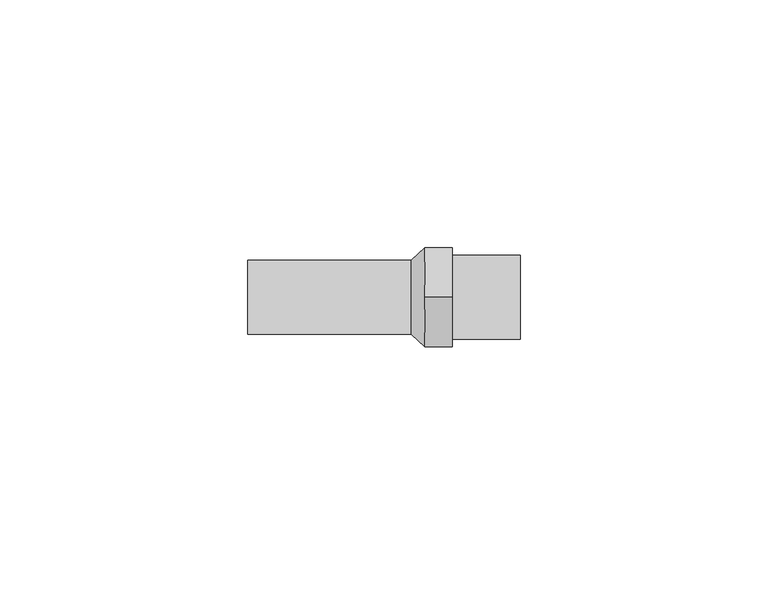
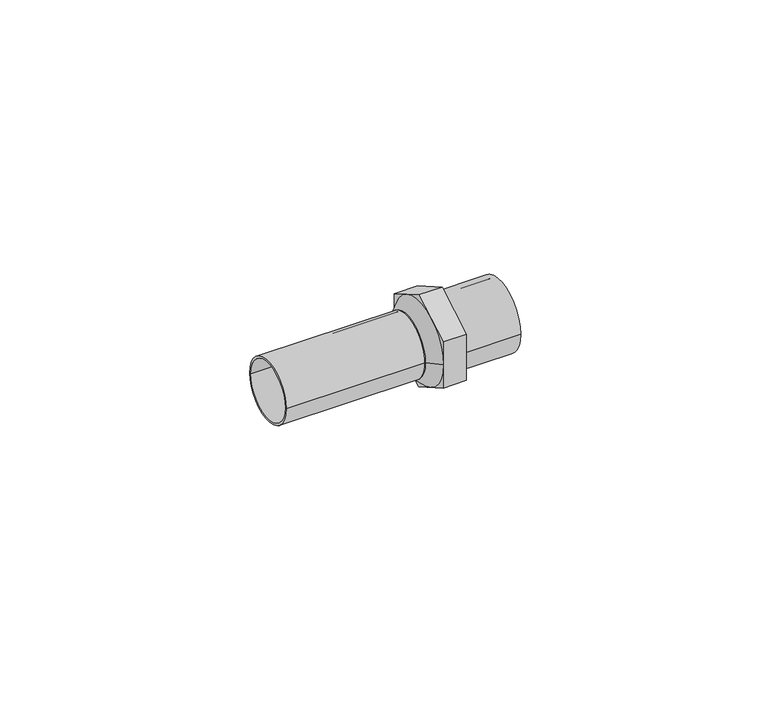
"""IFC4 building model written with IfcOpenShell, lengths in millimetres: pipe fitting geometry, VALTEC_VTi.906.I_Вставка с наружной резьбой нержавеющая сталь : VTi.906.I."""

from ifc_helpers import new_model, si_unit, point, frame, origin, origin_2d, place, context, project, spatial, polyline, circle_curve, trimmed, segment, composite_curve, outline, extrude, source, transform, mapped, element, save
from ifc_brep_helpers import plane_surface, revolved_surface, advanced_brep


def pipe_fitting_be2e820c(model_context):
    return source(origin(), model_context, "Body", "SolidModel", [
        extrude(outline(composite_curve([segment(trimmed(circle_curve(origin_2d(), 8.5), [point((-8.5, 0.0))], [point((8.5, 0.0))], False, "CARTESIAN"), True, "CONTINUOUS"), segment(trimmed(circle_curve(origin_2d(), 8.5), [point((8.5, 0.0))], [point((-8.5, 0.0))], False, "CARTESIAN"), True, "CONTINUOUS")], self_intersect=False), holes=[composite_curve([segment(trimmed(circle_curve(origin_2d(), 7.5), [point((-7.5, 0.0))], [point((7.5, 0.0))], True, "CARTESIAN"), True, "CONTINUOUS"), segment(trimmed(circle_curve(origin_2d(), 7.5), [point((7.5, 0.0))], [point((-7.5, 0.0))], True, "CARTESIAN"), True, "CONTINUOUS")], self_intersect=False)]), frame((41.25, 0.0, 0.0), z_axis=(1.0, 0.0, 0.0), x_axis=(0.0, 1.0, 0.0)), (0.0, 0.0, 1.0), 13.75),
        advanced_brep(
        [(35.75, -10.0, 0.0), (35.75, 10.0, 0.0), (33.0, -7.5, 0.0), (33.0, 7.5, 0.0)],
        [
            (0, 1, circle_curve(frame((35.75, 0.0, 0.0), z_axis=(1.0, 0.0, 0.0), x_axis=(0.0, -1.0, 0.0)), 10.0)),
            (1, 0, circle_curve(frame((35.75, 0.0, 0.0), z_axis=(1.0, 0.0, 0.0), x_axis=(0.0, 1.0, 0.0)), 10.0)),
            (2, 3, circle_curve(frame((33.0, 0.0, 0.0), z_axis=(-1.0, 0.0, 0.0), x_axis=(0.0, 1.0, 0.0)), 7.5)),
            (3, 2, circle_curve(frame((33.0, 0.0, 0.0), z_axis=(-1.0, 0.0, 0.0), x_axis=(0.0, -1.0, 0.0)), 7.5)),
            (3, 1),
            (0, 2),
        ],
        [
            plane_surface(frame((35.75, 0.0, 0.0), z_axis=(1.0, 0.0, 0.0), x_axis=(0.0, 0.0, -1.0))),
            plane_surface(frame((33.0, 0.0, 0.0), z_axis=(-1.0, 0.0, 0.0), x_axis=(0.0, 0.0, -1.0))),
            revolved_surface(polyline([(33.0, 7.5, 0.0), (35.75, 10.0, 0.0)]), (24.75, 0.0, 0.0), (1.0, 0.0, 0.0)),
            revolved_surface(polyline([(33.0, -7.5, 0.0), (35.75, -10.0, 0.0)]), (24.75, 0.0, 0.0), (1.0, 0.0, 0.0)),
        ],
        [
            (0, [[1, 2]]),
            (1, [[3, 4]]),
            (2, [[-4, 5, -1, 6]]),
            (3, [[-3, -6, -2, -5]]),
        ],
    ),
        extrude(outline(polyline([(0.0, 11.5470054), (10.0, 5.7735027), (10.0, -5.7735027), (0.0, -11.5470054), (-10.0, -5.7735027), (-10.0, 5.7735027), (0.0, 11.5470054)]), holes=[composite_curve([segment(trimmed(circle_curve(origin_2d(), 7.5), [point((-7.5, 0.0))], [point((7.5, 0.0))], True, "CARTESIAN"), True, "CONTINUOUS"), segment(trimmed(circle_curve(origin_2d(), 7.5), [point((7.5, 0.0))], [point((-7.5, 0.0))], True, "CARTESIAN"), True, "CONTINUOUS")], self_intersect=False)]), frame((35.75, 0.0, 0.0), z_axis=(1.0, 0.0, 0.0), x_axis=(0.0, 1.0, 0.0)), (0.0, 0.0, 1.0), 5.5),
        extrude(outline(composite_curve([segment(trimmed(circle_curve(origin_2d(), 7.5), [point((-7.5, 0.0))], [point((7.5, 0.0))], False, "CARTESIAN"), True, "CONTINUOUS"), segment(trimmed(circle_curve(origin_2d(), 7.5), [point((7.5, 0.0))], [point((-7.5, 0.0))], False, "CARTESIAN"), True, "CONTINUOUS")], self_intersect=False), holes=[composite_curve([segment(trimmed(circle_curve(origin_2d(), 7.0), [point((-7.0, 0.0))], [point((7.0, 0.0))], True, "CARTESIAN"), True, "CONTINUOUS"), segment(trimmed(circle_curve(origin_2d(), 7.0), [point((7.0, 0.0))], [point((-7.0, 0.0))], True, "CARTESIAN"), True, "CONTINUOUS")], self_intersect=False)]), frame((0.0, 0.0, 0.0), z_axis=(1.0, 0.0, 0.0), x_axis=(0.0, 1.0, 0.0)), (0.0, 0.0, 1.0), 33.0),
    ])


if __name__ == "__main__":
    model = new_model("IFC4")
    model_context = context("Model", 3, world=origin())
    ifc_project = project(units=[si_unit("LENGTHUNIT", "METRE", prefix="MILLI")], contexts=[model_context])
    site = spatial("IfcSite", under=ifc_project)
    building = spatial("IfcBuilding", under=site)
    placement = place(None, origin())
    pipe_fitting_shape = pipe_fitting_be2e820c(model_context)
    element("IfcPipeFitting", 1, ObjectType="VALTEC_VTi.906.I_Вставка с наружной резьбой нержавеющая сталь : VTi.906.I", at=placement, inside=building, context=model_context, shape_type="MappedRepresentation", body=[
        mapped(pipe_fitting_shape, transform((0.0, 0.0, 0.0), x_axis=(1.0, 0.0, 0.0), y_axis=(0.0, 1.0, 0.0), z_axis=(0.0, 0.0, 1.0))),
    ])
    save(model, "model.ifc")
